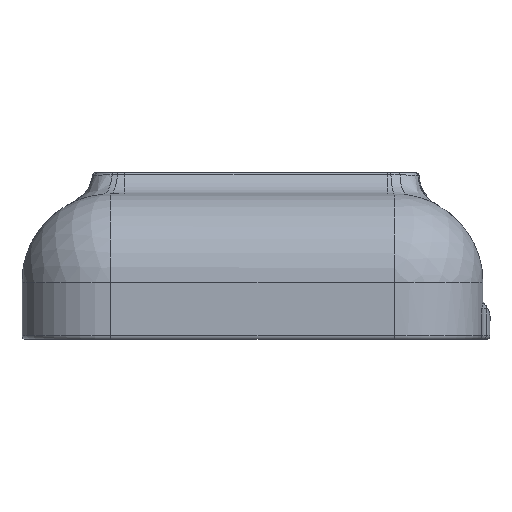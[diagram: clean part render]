
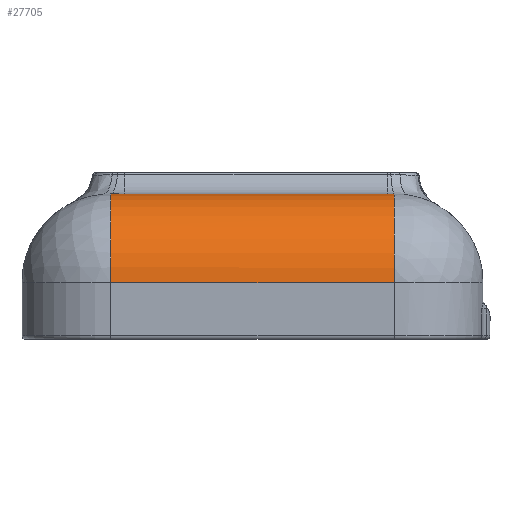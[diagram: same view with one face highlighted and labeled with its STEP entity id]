
A CAD part, left-side view. The second image highlights one B-rep face of the part: STEP entity #27705.
In plain terms, the highlighted cylindrical face has radius 12.5 mm (diameter 25 mm), a partial arc.
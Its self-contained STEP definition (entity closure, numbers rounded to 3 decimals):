
#1572=B_SPLINE_CURVE_WITH_KNOTS('',3,(#42968,#42969,#42970,#42971),
 .UNSPECIFIED.,.F.,.F.,(4,4),(-2.442,-2.343),
 .UNSPECIFIED.);
#1573=B_SPLINE_CURVE_WITH_KNOTS('',3,(#42998,#42999,#43000,#43001),
 .UNSPECIFIED.,.F.,.F.,(4,4),(-2.76,-2.56),
 .UNSPECIFIED.);
#4330=FACE_OUTER_BOUND('',#6069,.T.);
#6069=EDGE_LOOP('',(#25666,#25667,#25668,#25669,#25670,#25671));
#7195=LINE('',#42975,#9353);
#8127=LINE('',#61889,#10285);
#9353=VECTOR('',#31678,5.);
#10285=VECTOR('',#34312,10.);
#10674=CIRCLE('',#28390,12.5);
#11055=CIRCLE('',#29280,12.5);
#12550=VERTEX_POINT('',#42940);
#12551=VERTEX_POINT('',#42966);
#12552=VERTEX_POINT('',#42973);
#12553=VERTEX_POINT('',#42996);
#12566=VERTEX_POINT('',#43266);
#12630=VERTEX_POINT('',#43527);
#15598=EDGE_CURVE('',#12551,#12550,#1572,.T.);
#15600=EDGE_CURVE('',#12552,#12551,#7195,.T.);
#15602=EDGE_CURVE('',#12553,#12552,#1573,.T.);
#15630=EDGE_CURVE('',#12553,#12566,#10674,.F.);
#17496=EDGE_CURVE('',#12566,#12630,#8127,.T.);
#17546=EDGE_CURVE('',#12630,#12550,#11055,.F.);
#25666=ORIENTED_EDGE('',*,*,#15602,.F.);
#25667=ORIENTED_EDGE('',*,*,#15630,.T.);
#25668=ORIENTED_EDGE('',*,*,#17496,.T.);
#25669=ORIENTED_EDGE('',*,*,#17546,.T.);
#25670=ORIENTED_EDGE('',*,*,#15598,.F.);
#25671=ORIENTED_EDGE('',*,*,#15600,.F.);
#26188=CYLINDRICAL_SURFACE('',#29345,12.5);
#27705=ADVANCED_FACE('',(#4330),#26188,.T.);
#28390=AXIS2_PLACEMENT_3D('',#43268,#31728,#31729);
#29280=AXIS2_PLACEMENT_3D('',#62000,#34458,#34459);
#29345=AXIS2_PLACEMENT_3D('',#62621,#34647,#34648);
#31678=DIRECTION('',(0.,-1.,0.));
#31728=DIRECTION('center_axis',(0.,1.,0.));
#31729=DIRECTION('ref_axis',(0.,0.,1.));
#34312=DIRECTION('',(0.,-1.,0.));
#34458=DIRECTION('center_axis',(0.,-1.,0.));
#34459=DIRECTION('ref_axis',(-1.,0.,0.));
#34647=DIRECTION('center_axis',(0.,-1.,0.));
#34648=DIRECTION('ref_axis',(-0.707,0.,0.707));
#42940=CARTESIAN_POINT('',(-16.952,12.5,21.992));
#42966=CARTESIAN_POINT('',(-16.992,13.5,21.99));
#42968=CARTESIAN_POINT('Ctrl Pts',(-16.992,13.5,21.99));
#42969=CARTESIAN_POINT('Ctrl Pts',(-16.992,13.167,21.99));
#42970=CARTESIAN_POINT('Ctrl Pts',(-16.978,12.833,21.991));
#42971=CARTESIAN_POINT('Ctrl Pts',(-16.952,12.5,21.992));
#42973=CARTESIAN_POINT('',(-16.992,50.5,21.99));
#42975=CARTESIAN_POINT('',(-16.992,13.5,21.99));
#42996=CARTESIAN_POINT('',(-16.83,52.5,21.996));
#42998=CARTESIAN_POINT('Ctrl Pts',(-16.83,52.5,21.996));
#42999=CARTESIAN_POINT('Ctrl Pts',(-16.936,51.849,21.993));
#43000=CARTESIAN_POINT('Ctrl Pts',(-16.992,51.174,21.99));
#43001=CARTESIAN_POINT('Ctrl Pts',(-16.992,50.5,21.99));
#43266=CARTESIAN_POINT('',(-29.,52.5,9.5));
#43268=CARTESIAN_POINT('Origin',(-16.5,52.5,9.5));
#43527=CARTESIAN_POINT('',(-29.,12.5,9.5));
#61889=CARTESIAN_POINT('',(-29.,0.,9.5));
#62000=CARTESIAN_POINT('Origin',(-16.5,12.5,9.5));
#62621=CARTESIAN_POINT('Origin',(-16.5,0.,9.5));
